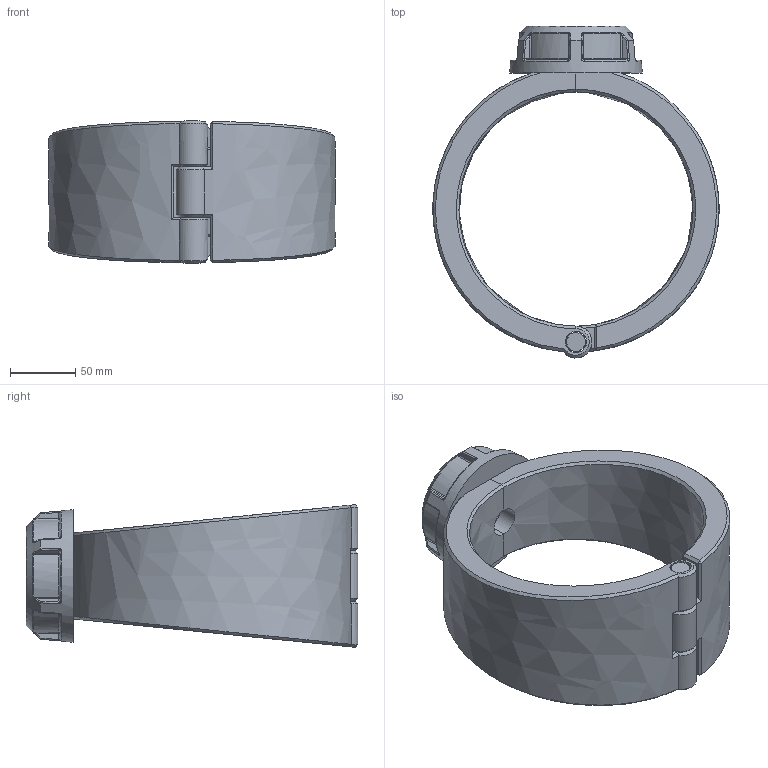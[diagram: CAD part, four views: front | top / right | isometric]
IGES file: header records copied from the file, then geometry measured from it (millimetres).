
Global section: file name: 163000180015; native system: Autodesk Inventor 2019; preprocessor: unknown; author: comp2; date: 20220203.115253; units: millimetre
Bounding box: 220 x 255 x 109.6 mm (x, y, z)
Volume: 1242440.6 mm3; surface area: 176965.2 mm2
Topology: 4 solids, 4 shells, 203 faces, 486 edges, 293 vertices
Faces by surface type: bspline 203
